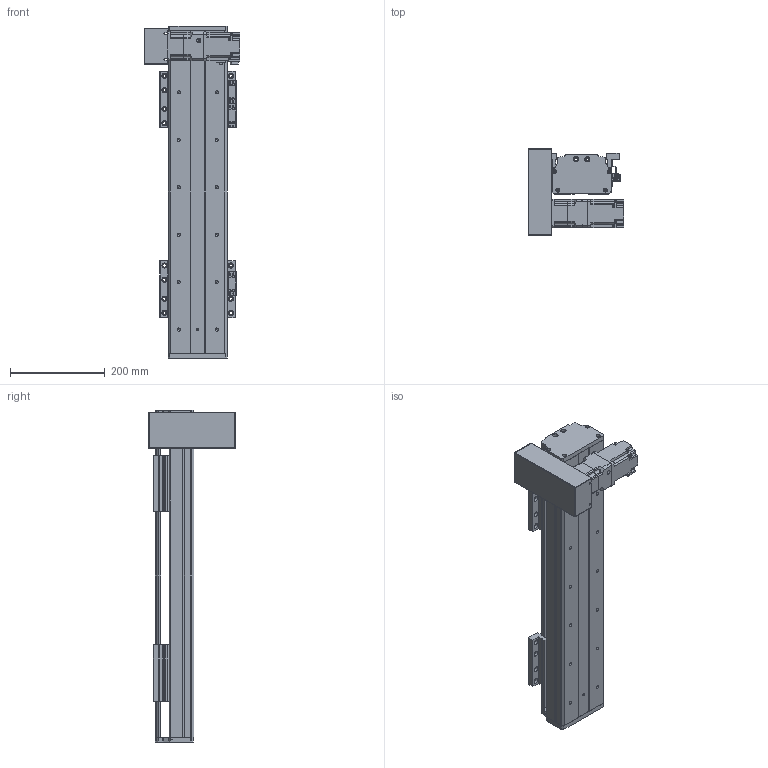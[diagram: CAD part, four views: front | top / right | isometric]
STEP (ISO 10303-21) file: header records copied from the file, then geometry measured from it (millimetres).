
FILE_DESCRIPTION(/* description */ (''),/* implementation_level */ '2;1');
FILE_NAME(/* name */ 'C:\Users\PC\Desktop\3D도면\STEP\DSB125-DL2G-W0400-R.stp',/* time_stamp */ '2018-06-21T14:47:27+09:00',/* author */ ('PC'),/* organization */ (''),/* preprocessor_version */ 'ST-DEVELOPER v16.5',/* originating_system */ 'Autodesk Inventor 2017',/* authorisation */ '');
FILE_SCHEMA (('AUTOMOTIVE_DESIGN { 1 0 10303 214 3 1 1 }'));
Length unit declared in the file: millimetre
Products named in the file (12): DSB125-L-300ST; DSR125-BASE(S-TYPE); DSR125-REAR COVER-R01(170203); DSR125-REAR COVER-R01(170203)_1; DSR125-UP COVER-R01(170203); hg-kr23_; ab0601-p0401200402; 13-BELT COVER; DSR126-SENSOR DOG; pm-y65_step; SENSOR BRACKET(EE-SX674A); DSR125-TABLE(MSA15X)
Assembly tree (16 placements, depth 2):
  DSB125-L-300ST
    DSR125-BASE(S-TYPE)
    DSR125-REAR COVER-R01(170203)
    DSR125-REAR COVER-R01(170203)_1
    DSR125-UP COVER-R01(170203)
    hg-kr23_
    ab0601-p0401200402
    13-BELT COVER
    DSR126-SENSOR DOG
    pm-y65_step  x3
    SENSOR BRACKET(EE-SX674A)  x3
    DSR125-TABLE(MSA15X)  x2
Bounding box: 202.1 x 182 x 700 mm (x, y, z)
Volume: 3135847.2 mm3; surface area: 907511.7 mm2
Topology: 17 solids, 22 shells, 1649 faces, 4471 edges, 2952 vertices
Faces by surface type: plane 908, cylinder 625, cone 104, sphere 8, torus 4
Full cylindrical faces by diameter (mm): 2.459 x20, 3.242 x16, 3.5 x6, 4 x1, 4.134 x16, 4.2 x4, 4.3 x1, 4.5 x50, 4.917 x20, 5 x27, 5.3 x1, 5.5 x4, 5.6 x8, 5.8 x4, 5.9 x8, 6 x4, 6.6 x22, 6.647 x14, 7.5 x32, 8.5 x8, 8.7 x1, 11 x22, 14 x1, 16 x2, 17 x1, 20 x1, 47 x1, 50 x3
Entity records: 35110 total; most frequent: CARTESIAN_POINT 6463, DIRECTION 6076, ORIENTED_EDGE 5454, EDGE_CURVE 2732, AXIS2_PLACEMENT_3D 2226, VERTEX_POINT 1941, EDGE_LOOP 1649, LINE 1624
